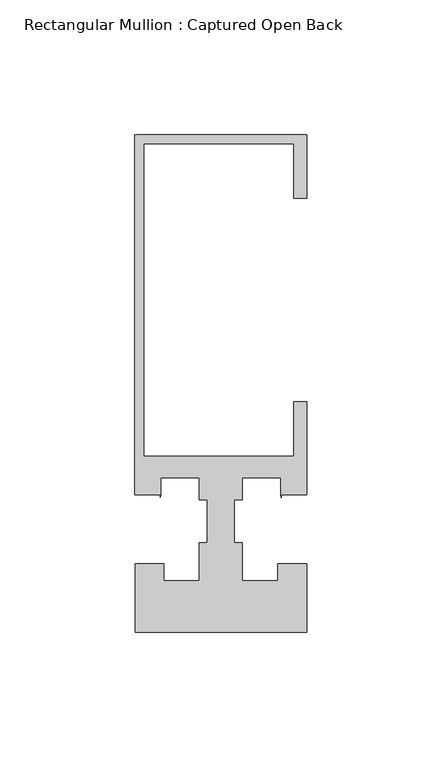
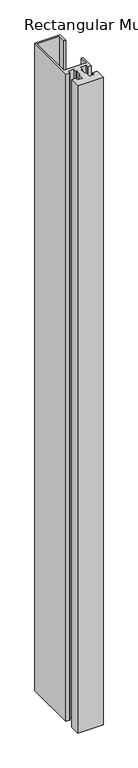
"""IFC4 building model written with IfcOpenShell, lengths in millimetres: member geometry, Rectangular Mullion : Captured Open Back."""

from ifc_helpers import new_model, si_unit, frame, origin, place, context, project, spatial, polyline, outline, extrude, source, transform, mapped, element, save


def rectangular_mullion_captured_open_back_40401035(model_context):
    return source(origin(), model_context, "Body", "SweptSolid", [
        extrude(outline(polyline([(0.0, 114.3), (0.0, 90.8721193), (-4.7830665, 90.8721193), (-4.7830665, 111.1250145), (-60.3449493, 111.1250145), (-60.3449493, -4.7625735), (-4.7830665, -4.7625735), (-4.7830665, 15.5833982), (0.0, 15.5833982), (0.0, -18.933673), (-9.3791839, -18.933673), (-9.3791839, -20.0839351), (-9.5454538, -18.933673), (-9.5454538, -12.7), (-23.7289004, -12.7), (-23.7289004, -20.8793999), (-26.7817813, -20.8793999), (-26.7817813, -36.6491027), (-23.833119, -36.6491027), (-23.833119, -50.8001709), (-10.6860183, -50.8001709), (-10.6860183, -44.4245655), (0.0, -44.4245655), (0.0, -69.8502416), (-63.5, -69.8502416), (-63.5, -44.4247364), (-52.7976545, -44.4247364), (-52.7976545, -50.8001709), (-39.7081202, -50.8001709), (-39.7081202, -36.6491027), (-36.7345137, -36.6491027), (-36.7345137, -20.8793999), (-39.7081204, -20.8793999), (-39.7081204, -12.7), (-53.9955753, -12.7), (-53.9955753, -18.948961), (-54.1818814, -19.8905485), (-54.1818814, -18.9488461), (-63.5205663, -18.9488461), (-63.5205663, 114.3), (0.0, 114.3)])), frame((0.0, 0.0, -1704.9898159), z_axis=(0.0, 0.0, 1.0), x_axis=(1.0, 0.0, 0.0)), (0.0, 0.0, 1.0), 1704.9898159),
    ])


if __name__ == "__main__":
    model = new_model("IFC4")
    model_context = context("Model", 3, world=origin())
    ifc_project = project(units=[si_unit("LENGTHUNIT", "METRE", prefix="MILLI")], contexts=[model_context])
    site = spatial("IfcSite", under=ifc_project)
    building = spatial("IfcBuilding", under=site)
    placement = place(None, origin())
    rectangular_mullion_captured_open_back_shape = rectangular_mullion_captured_open_back_40401035(model_context)
    element("IfcMember", 1, ObjectType="Rectangular Mullion : Captured Open Back", at=placement, inside=building, context=model_context, shape_type="MappedRepresentation", body=[
        mapped(rectangular_mullion_captured_open_back_shape, transform((0.0, 0.0, 0.0), x_axis=(1.0, 0.0, 0.0), y_axis=(0.0, 1.0, 0.0), z_axis=(0.0, 0.0, 1.0))),
    ])
    save(model, "model.ifc")
